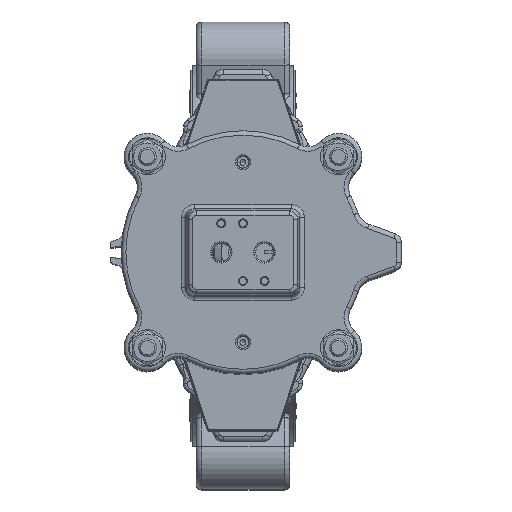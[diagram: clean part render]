
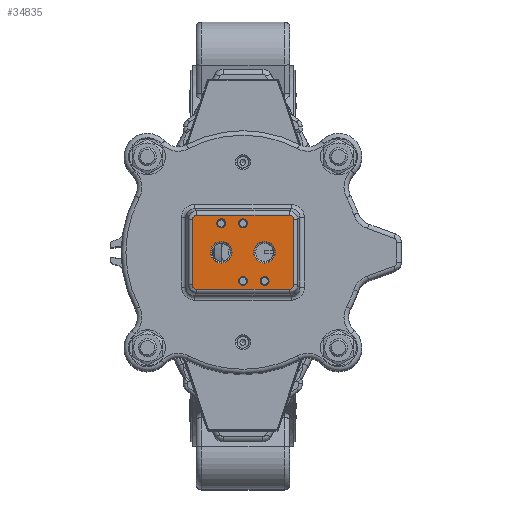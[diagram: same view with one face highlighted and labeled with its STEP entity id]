
A CAD part, top view. The second image highlights one B-rep face of the part: STEP entity #34835.
In plain terms, the highlighted planar face has unit normal (0, 0, 1).
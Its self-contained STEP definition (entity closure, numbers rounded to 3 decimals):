
#282=ELLIPSE('',#37449,2.673,2.5);
#283=ELLIPSE('',#37450,2.673,2.5);
#284=ELLIPSE('',#37451,2.673,2.5);
#285=ELLIPSE('',#37452,2.673,2.5);
#2096=LINE('',#54948,#4047);
#2097=LINE('',#54952,#4048);
#2098=LINE('',#54956,#4049);
#2099=LINE('',#54959,#4050);
#4047=VECTOR('',#42899,10.);
#4048=VECTOR('',#42902,10.);
#4049=VECTOR('',#42905,10.);
#4050=VECTOR('',#42908,10.);
#6540=FACE_BOUND('',#9629,.T.);
#6541=FACE_BOUND('',#9630,.T.);
#6542=FACE_BOUND('',#9631,.T.);
#6543=FACE_BOUND('',#9632,.T.);
#6544=FACE_BOUND('',#9633,.T.);
#6545=FACE_BOUND('',#9634,.T.);
#7175=FACE_OUTER_BOUND('',#9628,.T.);
#9628=EDGE_LOOP('',(#24152,#24153,#24154,#24155,#24156,#24157,#24158,#24159));
#9629=EDGE_LOOP('',(#24160));
#9630=EDGE_LOOP('',(#24161));
#9631=EDGE_LOOP('',(#24162));
#9632=EDGE_LOOP('',(#24163));
#9633=EDGE_LOOP('',(#24164));
#9634=EDGE_LOOP('',(#24165));
#12336=CIRCLE('',#37447,2.5);
#12337=CIRCLE('',#37453,2.5);
#12338=CIRCLE('',#37454,2.5);
#12339=CIRCLE('',#37455,6.);
#12340=CIRCLE('',#37456,6.);
#12341=CIRCLE('',#37457,2.5);
#14902=VERTEX_POINT('',#54941);
#14903=VERTEX_POINT('',#54944);
#14904=VERTEX_POINT('',#54945);
#14905=VERTEX_POINT('',#54947);
#14906=VERTEX_POINT('',#54949);
#14907=VERTEX_POINT('',#54951);
#14908=VERTEX_POINT('',#54953);
#14909=VERTEX_POINT('',#54955);
#14910=VERTEX_POINT('',#54957);
#14911=VERTEX_POINT('',#54960);
#14912=VERTEX_POINT('',#54962);
#14913=VERTEX_POINT('',#54964);
#14914=VERTEX_POINT('',#54966);
#14915=VERTEX_POINT('',#54968);
#18404=EDGE_CURVE('',#14902,#14902,#12336,.T.);
#18405=EDGE_CURVE('',#14903,#14904,#282,.T.);
#18406=EDGE_CURVE('',#14905,#14903,#2096,.T.);
#18407=EDGE_CURVE('',#14906,#14905,#283,.T.);
#18408=EDGE_CURVE('',#14907,#14906,#2097,.T.);
#18409=EDGE_CURVE('',#14908,#14907,#284,.T.);
#18410=EDGE_CURVE('',#14909,#14908,#2098,.T.);
#18411=EDGE_CURVE('',#14910,#14909,#285,.T.);
#18412=EDGE_CURVE('',#14904,#14910,#2099,.T.);
#18413=EDGE_CURVE('',#14911,#14911,#12337,.T.);
#18414=EDGE_CURVE('',#14912,#14912,#12338,.T.);
#18415=EDGE_CURVE('',#14913,#14913,#12339,.T.);
#18416=EDGE_CURVE('',#14914,#14914,#12340,.T.);
#18417=EDGE_CURVE('',#14915,#14915,#12341,.T.);
#24152=ORIENTED_EDGE('',*,*,#18405,.F.);
#24153=ORIENTED_EDGE('',*,*,#18406,.F.);
#24154=ORIENTED_EDGE('',*,*,#18407,.F.);
#24155=ORIENTED_EDGE('',*,*,#18408,.F.);
#24156=ORIENTED_EDGE('',*,*,#18409,.F.);
#24157=ORIENTED_EDGE('',*,*,#18410,.F.);
#24158=ORIENTED_EDGE('',*,*,#18411,.F.);
#24159=ORIENTED_EDGE('',*,*,#18412,.F.);
#24160=ORIENTED_EDGE('',*,*,#18413,.F.);
#24161=ORIENTED_EDGE('',*,*,#18414,.F.);
#24162=ORIENTED_EDGE('',*,*,#18415,.F.);
#24163=ORIENTED_EDGE('',*,*,#18416,.F.);
#24164=ORIENTED_EDGE('',*,*,#18417,.F.);
#24165=ORIENTED_EDGE('',*,*,#18404,.F.);
#33907=PLANE('',#37448);
#34835=ADVANCED_FACE('',(#7175,#6540,#6541,#6542,#6543,#6544,#6545),#33907,
 .F.);
#37447=AXIS2_PLACEMENT_3D('',#54942,#42893,#42894);
#37448=AXIS2_PLACEMENT_3D('',#54943,#42895,#42896);
#37449=AXIS2_PLACEMENT_3D('',#54946,#42897,#42898);
#37450=AXIS2_PLACEMENT_3D('',#54950,#42900,#42901);
#37451=AXIS2_PLACEMENT_3D('',#54954,#42903,#42904);
#37452=AXIS2_PLACEMENT_3D('',#54958,#42906,#42907);
#37453=AXIS2_PLACEMENT_3D('',#54961,#42909,#42910);
#37454=AXIS2_PLACEMENT_3D('',#54963,#42911,#42912);
#37455=AXIS2_PLACEMENT_3D('',#54965,#42913,#42914);
#37456=AXIS2_PLACEMENT_3D('',#54967,#42915,#42916);
#37457=AXIS2_PLACEMENT_3D('',#54969,#42917,#42918);
#42893=DIRECTION('center_axis',(0.,0.,
1.));
#42894=DIRECTION('ref_axis',(-1.,0.,0.));
#42895=DIRECTION('center_axis',(0.,0.,
-1.));
#42896=DIRECTION('ref_axis',(-1.,0.,0.));
#42897=DIRECTION('center_axis',(0.,0.,
-1.));
#42898=DIRECTION('ref_axis',(-0.707,-0.707,0.));
#42899=DIRECTION('',(-1.,0.,0.));
#42900=DIRECTION('center_axis',(0.,0.,
-1.));
#42901=DIRECTION('ref_axis',(0.707,-0.707,0.));
#42902=DIRECTION('',(0.,-1.,0.));
#42903=DIRECTION('center_axis',(0.,0.,
-1.));
#42904=DIRECTION('ref_axis',(0.707,0.707,0.));
#42905=DIRECTION('',(1.,0.,0.));
#42906=DIRECTION('center_axis',(0.,0.,
-1.));
#42907=DIRECTION('ref_axis',(-0.707,0.707,0.));
#42908=DIRECTION('',(0.,1.,0.));
#42909=DIRECTION('center_axis',(0.,0.,
1.));
#42910=DIRECTION('ref_axis',(-1.,0.,0.));
#42911=DIRECTION('center_axis',(0.,0.,
1.));
#42912=DIRECTION('ref_axis',(-1.,0.,0.));
#42913=DIRECTION('center_axis',(0.,0.,
1.));
#42914=DIRECTION('ref_axis',(-1.,0.,0.));
#42915=DIRECTION('center_axis',(0.,0.,
1.));
#42916=DIRECTION('ref_axis',(-1.,0.,0.));
#42917=DIRECTION('center_axis',(0.,0.,
1.));
#42918=DIRECTION('ref_axis',(-1.,0.,0.));
#54941=CARTESIAN_POINT('',(-9.5,16.733,777.5));
#54942=CARTESIAN_POINT('Origin',(-12.,16.733,777.5));
#54943=CARTESIAN_POINT('Origin',(0.,0.733,
777.5));
#54944=CARTESIAN_POINT('',(-25.667,-19.848,777.5));
#54945=CARTESIAN_POINT('',(-28.082,-17.434,777.5));
#54946=CARTESIAN_POINT('Origin',(-25.493,-17.26,777.5));
#54947=CARTESIAN_POINT('',(25.667,-19.848,777.5));
#54948=CARTESIAN_POINT('',(-15.,-19.848,777.5));
#54949=CARTESIAN_POINT('',(28.082,-17.434,777.5));
#54950=CARTESIAN_POINT('Origin',(25.493,-17.26,777.5));
#54951=CARTESIAN_POINT('',(28.082,18.9,777.5));
#54952=CARTESIAN_POINT('',(28.082,-10.517,777.5));
#54953=CARTESIAN_POINT('',(25.667,21.315,777.5));
#54954=CARTESIAN_POINT('Origin',(25.493,18.727,777.5));
#54955=CARTESIAN_POINT('',(-25.667,21.315,777.5));
#54956=CARTESIAN_POINT('',(15.,21.315,777.5));
#54957=CARTESIAN_POINT('',(-28.082,18.9,777.5));
#54958=CARTESIAN_POINT('Origin',(-25.493,18.727,777.5));
#54959=CARTESIAN_POINT('',(-28.082,11.983,777.5));
#54960=CARTESIAN_POINT('',(2.5,16.733,777.5));
#54961=CARTESIAN_POINT('Origin',(0.,16.733,
777.5));
#54962=CARTESIAN_POINT('',(14.5,-15.267,777.5));
#54963=CARTESIAN_POINT('Origin',(12.,-15.267,777.5));
#54964=CARTESIAN_POINT('',(18.,0.733,777.5));
#54965=CARTESIAN_POINT('Origin',(12.,0.733,777.5));
#54966=CARTESIAN_POINT('',(-6.,0.733,777.5));
#54967=CARTESIAN_POINT('Origin',(-12.,0.733,777.5));
#54968=CARTESIAN_POINT('',(2.5,-15.267,777.5));
#54969=CARTESIAN_POINT('Origin',(0.,-15.267,
777.5));
